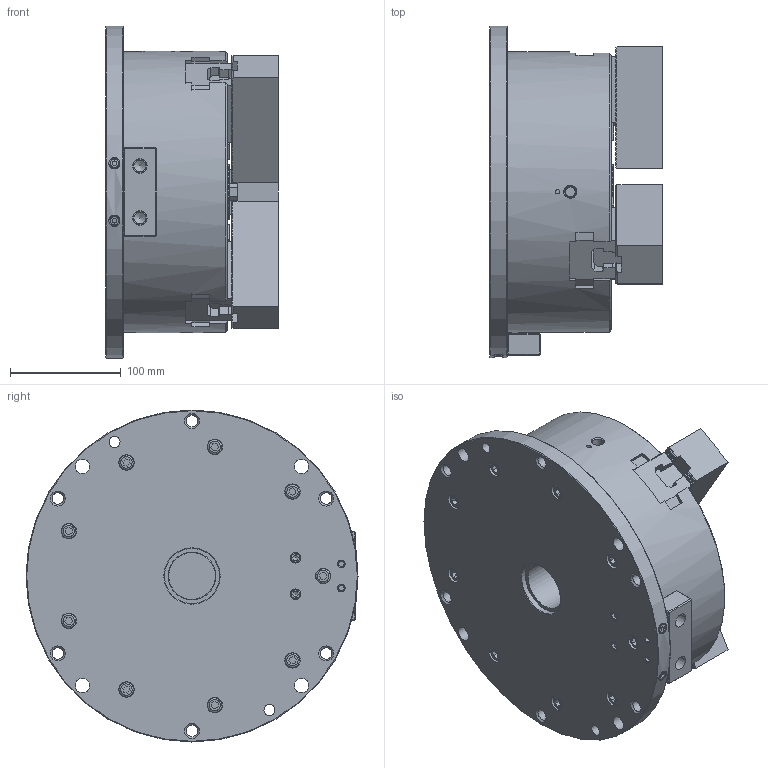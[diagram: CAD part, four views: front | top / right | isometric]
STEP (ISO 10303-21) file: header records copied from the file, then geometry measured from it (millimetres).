
FILE_DESCRIPTION (( 'STEP AP214' ), '1' );
FILE_NAME ('AS10_61P223323_OC.STEP', '2020-03-19T05:44:59', ( '' ), ( '' ), 'SwSTEP 2.0', 'SolidWorks 2017', '' );
FILE_SCHEMA (( 'AUTOMOTIVE_DESIGN' ));
Length unit declared in the file: millimetre
Products named in the file (18): AS10_61P223323_OC; Part1^61P223323_AS10_ASSY_蹬怮椔; B傾僫僣僉 M12亊352_~35; 61P300113_SOFTJAW_蹬怮椔; 61P300113_SOFTJAW; Part1^61P223323_AS10_ASSY; B傾僫僣僉 M12亊352_~35_棉太倌TI佱UA; 61P400852_TNUT; 61P400852_TNUT_蹬怮椔
Assembly tree (13 placements, depth 2):
  AS10_61P223323_OC
    61P300113_SOFTJAW_蹬怮椔  x3
    61P400852_TNUT_蹬怮椔  x3
    B傾僫僣僉 M12亊352_~35_棉太倌TI佱UA  x6
    Part1^61P223323_AS10_ASSY_蹬怮椔
  B傾僫僣僉 M12亊352_~35
  61P300113_SOFTJAW
  Part1^61P223323_AS10_ASSY
  B傾僫僣僉 M12亊352_~35
Bounding box: 156.2 x 300 x 300 mm (x, y, z)
Volume: 6243472.2 mm3; surface area: 428696.2 mm2
Topology: 13 solids, 34 shells, 4128 faces, 11610 edges, 7673 vertices
Faces by surface type: plane 3018, cylinder 917, cone 117, bspline 70, torus 4, sphere 2
Full cylindrical faces by diameter (mm): 1.9 x1, 4 x1, 5 x2, 6 x8, 6.6 x2, 8.5 x3, 8.8 x8, 9.5 x3, 10 x15, 10.5 x6, 10.7 x2, 11 x2, 12 x12, 13 x19, 14 x9, 15 x1, 18 x6, 19 x6, 43 x1, 50 x2, 254 x1, 300 x1
Entity records: 91599 total; most frequent: CARTESIAN_POINT 19747, ORIENTED_EDGE 15128, DIRECTION 14157, EDGE_CURVE 7564, LINE 5939, VECTOR 5939, VERTEX_POINT 5081, AXIS2_PLACEMENT_3D 4109
